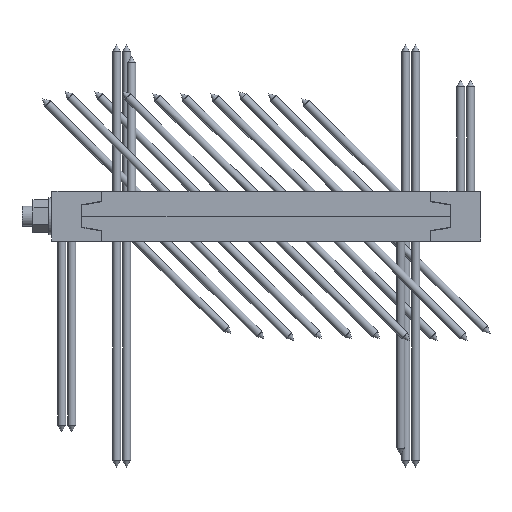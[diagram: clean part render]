
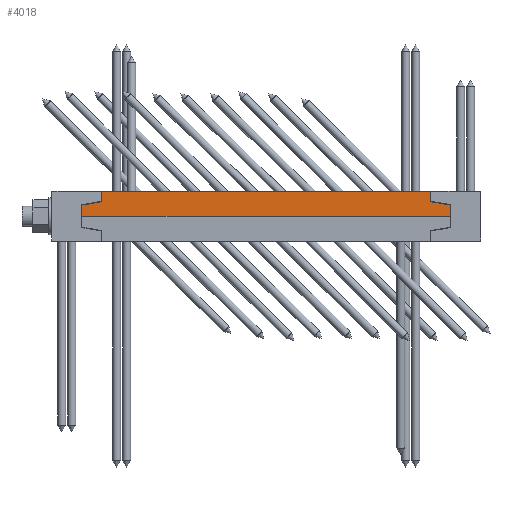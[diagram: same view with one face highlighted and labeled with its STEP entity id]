
A CAD part, left-side view. The second image highlights one B-rep face of the part: STEP entity #4018.
In plain terms, the highlighted planar face has unit normal (-1, 0, 0) as drawn and (1, 0, 0) by its records, which use the part's own axes.
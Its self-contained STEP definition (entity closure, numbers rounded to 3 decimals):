
#94=LINE('',#6443,#374);
#117=LINE('',#6490,#397);
#137=LINE('',#6533,#417);
#159=LINE('',#6578,#439);
#178=LINE('',#6633,#458);
#189=LINE('',#6721,#469);
#191=LINE('',#6725,#471);
#192=LINE('',#6726,#472);
#374=VECTOR('',#5143,1000.);
#397=VECTOR('',#5174,1000.);
#417=VECTOR('',#5204,1000.);
#439=VECTOR('',#5234,1000.);
#458=VECTOR('',#5281,1000.);
#469=VECTOR('',#5368,1000.);
#471=VECTOR('',#5372,1000.);
#472=VECTOR('',#5373,1000.);
#966=PLANE('',#4653);
#1379=ORIENTED_EDGE('',*,*,#2113,.T.);
#1380=ORIENTED_EDGE('',*,*,#2138,.T.);
#1381=ORIENTED_EDGE('',*,*,#2214,.T.);
#1382=ORIENTED_EDGE('',*,*,#2160,.F.);
#1383=ORIENTED_EDGE('',*,*,#2184,.F.);
#1384=ORIENTED_EDGE('',*,*,#2261,.F.);
#1385=ORIENTED_EDGE('',*,*,#2259,.F.);
#1386=ORIENTED_EDGE('',*,*,#2262,.T.);
#2113=EDGE_CURVE('',#2573,#2572,#94,.T.);
#2138=EDGE_CURVE('',#2572,#2592,#117,.T.);
#2160=EDGE_CURVE('',#2610,#2611,#137,.T.);
#2184=EDGE_CURVE('',#2629,#2610,#159,.T.);
#2214=EDGE_CURVE('',#2592,#2611,#178,.T.);
#2259=EDGE_CURVE('',#2690,#2691,#189,.T.);
#2261=EDGE_CURVE('',#2691,#2629,#191,.T.);
#2262=EDGE_CURVE('',#2690,#2573,#192,.T.);
#2572=VERTEX_POINT('',#6442);
#2573=VERTEX_POINT('',#6444);
#2592=VERTEX_POINT('',#6489);
#2610=VERTEX_POINT('',#6532);
#2611=VERTEX_POINT('',#6534);
#2629=VERTEX_POINT('',#6577);
#2690=VERTEX_POINT('',#6720);
#2691=VERTEX_POINT('',#6722);
#3117=EDGE_LOOP('',(#1379,#1380,#1381,#1382,#1383,#1384,#1385,#1386));
#3578=FACE_BOUND('',#3117,.T.);
#4018=ADVANCED_FACE('',(#3578),#966,.T.);
#4653=AXIS2_PLACEMENT_3D('',#6724,#5370,#5371);
#5143=DIRECTION('',(0.,0.985,0.174));
#5174=DIRECTION('',(0.,0.,1.));
#5204=DIRECTION('',(0.,0.,1.));
#5234=DIRECTION('',(0.,-0.985,0.174));
#5281=DIRECTION('',(0.,-1.,0.));
#5368=DIRECTION('',(0.,-1.,0.));
#5370=DIRECTION('',(1.,0.,0.));
#5371=DIRECTION('',(0.,0.,-1.));
#5372=DIRECTION('',(0.,0.,1.));
#5373=DIRECTION('',(0.,0.,1.));
#6442=CARTESIAN_POINT('',(150.,370.,14.));
#6443=CARTESIAN_POINT('',(150.,370.,14.));
#6444=CARTESIAN_POINT('',(150.,350.,10.473));
#6489=CARTESIAN_POINT('',(150.,370.,25.));
#6490=CARTESIAN_POINT('',(150.,370.,0.));
#6532=CARTESIAN_POINT('',(150.,0.,14.));
#6533=CARTESIAN_POINT('',(150.,0.,0.));
#6534=CARTESIAN_POINT('',(150.,0.,25.));
#6577=CARTESIAN_POINT('',(150.,20.,10.473));
#6578=CARTESIAN_POINT('',(150.,361.237,-49.696));
#6633=CARTESIAN_POINT('',(150.,370.,25.));
#6720=CARTESIAN_POINT('',(150.,350.,0.));
#6721=CARTESIAN_POINT('',(150.,370.,0.));
#6722=CARTESIAN_POINT('',(150.,20.,0.));
#6724=CARTESIAN_POINT('',(150.,370.,0.));
#6725=CARTESIAN_POINT('',(150.,20.,0.));
#6726=CARTESIAN_POINT('',(150.,350.,10.473));
